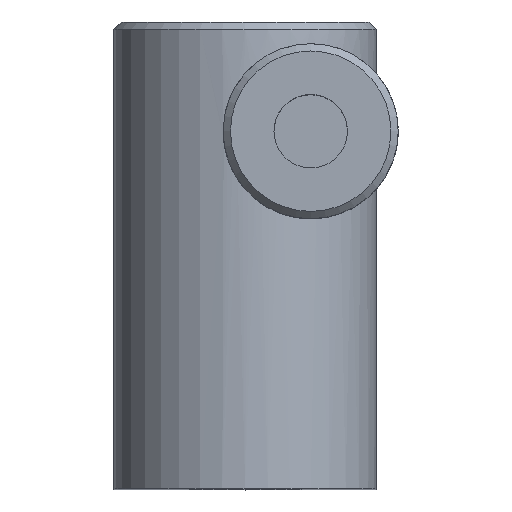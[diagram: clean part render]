
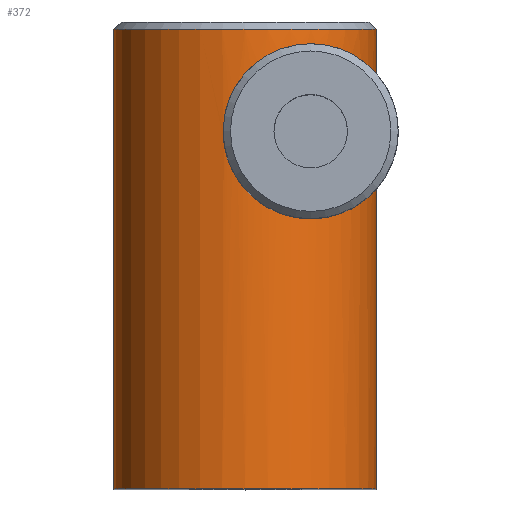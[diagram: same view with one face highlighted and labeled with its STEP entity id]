
A CAD part, top view. The second image highlights one B-rep face of the part: STEP entity #372.
In plain terms, the highlighted cylindrical face has radius 9 mm (diameter 18 mm), a partial arc.
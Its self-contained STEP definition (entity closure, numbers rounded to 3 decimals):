
#24=B_SPLINE_CURVE_WITH_KNOTS('',3,(#641,#642,#643,#644,#645,#646,#647,
#648,#649,#650,#651,#652,#653,#654,#655,#656,#657,#658,#659,#660),
 .UNSPECIFIED.,.F.,.F.,(4,2,2,2,2,2,2,2,2,4),(0.,0.2,0.399,
0.799,0.985,1.171,1.343,1.515,
1.689,1.864),.UNSPECIFIED.);
#25=B_SPLINE_CURVE_WITH_KNOTS('',3,(#662,#663,#664,#665,#666,#667,#668,
#669,#670,#671,#672,#673,#674,#675,#676,#677,#678,#679,#680,#681),
 .UNSPECIFIED.,.F.,.F.,(4,2,2,2,2,2,2,2,2,4),(1.864,2.038,
2.213,2.385,2.557,2.743,2.929,
3.328,3.528,3.728),.UNSPECIFIED.);
#65=FACE_OUTER_BOUND('',#89,.T.);
#89=EDGE_LOOP('',(#319,#320,#321,#322,#323,#324,#325));
#104=LINE('',#607,#130);
#105=LINE('',#611,#131);
#121=LINE('',#697,#147);
#130=VECTOR('',#488,10.);
#131=VECTOR('',#491,10.);
#147=VECTOR('',#543,10.);
#163=CIRCLE('',#425,9.);
#166=CIRCLE('',#431,9.);
#182=VERTEX_POINT('',#604);
#183=VERTEX_POINT('',#606);
#184=VERTEX_POINT('',#608);
#185=VERTEX_POINT('',#610);
#190=VERTEX_POINT('',#626);
#194=VERTEX_POINT('',#640);
#197=VERTEX_POINT('',#696);
#217=EDGE_CURVE('',#183,#182,#104,.T.);
#219=EDGE_CURVE('',#185,#184,#105,.T.);
#234=EDGE_CURVE('',#184,#194,#24,.T.);
#236=EDGE_CURVE('',#194,#183,#25,.T.);
#238=EDGE_CURVE('',#190,#182,#163,.T.);
#244=EDGE_CURVE('',#197,#190,#121,.T.);
#245=EDGE_CURVE('',#197,#185,#166,.T.);
#319=ORIENTED_EDGE('',*,*,#238,.F.);
#320=ORIENTED_EDGE('',*,*,#244,.F.);
#321=ORIENTED_EDGE('',*,*,#245,.T.);
#322=ORIENTED_EDGE('',*,*,#219,.T.);
#323=ORIENTED_EDGE('',*,*,#234,.T.);
#324=ORIENTED_EDGE('',*,*,#236,.T.);
#325=ORIENTED_EDGE('',*,*,#217,.T.);
#354=CYLINDRICAL_SURFACE('',#430,9.);
#372=ADVANCED_FACE('',(#65),#354,.T.);
#425=AXIS2_PLACEMENT_3D('',#685,#528,#529);
#430=AXIS2_PLACEMENT_3D('',#695,#541,#542);
#431=AXIS2_PLACEMENT_3D('',#698,#544,#545);
#488=DIRECTION('',(0.,1.,0.));
#491=DIRECTION('',(0.,1.,0.));
#528=DIRECTION('center_axis',(0.,1.,0.));
#529=DIRECTION('ref_axis',(-1.,0.,0.));
#541=DIRECTION('center_axis',(0.,1.,0.));
#542=DIRECTION('ref_axis',(-1.,0.,0.));
#543=DIRECTION('',(0.,1.,0.));
#544=DIRECTION('center_axis',(0.,1.,0.));
#545=DIRECTION('ref_axis',(-1.,0.,0.));
#604=CARTESIAN_POINT('',(49.,31.5,-9.));
#606=CARTESIAN_POINT('',(49.,28.469,-9.));
#607=CARTESIAN_POINT('',(49.,0.,-9.));
#608=CARTESIAN_POINT('',(49.,20.531,-9.));
#610=CARTESIAN_POINT('',(49.,0.,-9.));
#611=CARTESIAN_POINT('',(49.,0.,-9.));
#626=CARTESIAN_POINT('',(31.,31.5,-9.));
#640=CARTESIAN_POINT('',(38.5,24.5,-0.126));
#641=CARTESIAN_POINT('Ctrl Pts',(49.,20.531,-9.));
#642=CARTESIAN_POINT('Ctrl Pts',(49.,20.531,-8.335));
#643=CARTESIAN_POINT('Ctrl Pts',(48.926,20.444,-7.673));
#644=CARTESIAN_POINT('Ctrl Pts',(48.639,20.151,-6.391));
#645=CARTESIAN_POINT('Ctrl Pts',(48.425,19.949,-5.769));
#646=CARTESIAN_POINT('Ctrl Pts',(47.592,19.311,-3.994));
#647=CARTESIAN_POINT('Ctrl Pts',(46.774,18.853,-2.931));
#648=CARTESIAN_POINT('Ctrl Pts',(45.296,18.534,-1.698));
#649=CARTESIAN_POINT('Ctrl Pts',(44.736,18.476,-1.318));
#650=CARTESIAN_POINT('Ctrl Pts',(43.558,18.545,-0.707));
#651=CARTESIAN_POINT('Ctrl Pts',(42.94,18.675,-0.474));
#652=CARTESIAN_POINT('Ctrl Pts',(41.859,19.084,-0.178));
#653=CARTESIAN_POINT('Ctrl Pts',(41.316,19.377,-0.083));
#654=CARTESIAN_POINT('Ctrl Pts',(40.345,20.128,0.007));
#655=CARTESIAN_POINT('Ctrl Pts',(39.917,20.585,0.006));
#656=CARTESIAN_POINT('Ctrl Pts',(39.254,21.531,-0.025));
#657=CARTESIAN_POINT('Ctrl Pts',(38.967,22.096,-0.057));
#658=CARTESIAN_POINT('Ctrl Pts',(38.59,23.29,-0.109));
#659=CARTESIAN_POINT('Ctrl Pts',(38.5,23.918,-0.126));
#660=CARTESIAN_POINT('Ctrl Pts',(38.5,24.5,-0.126));
#662=CARTESIAN_POINT('Ctrl Pts',(38.5,24.5,-0.126));
#663=CARTESIAN_POINT('Ctrl Pts',(38.5,25.082,-0.126));
#664=CARTESIAN_POINT('Ctrl Pts',(38.59,25.71,-0.109));
#665=CARTESIAN_POINT('Ctrl Pts',(38.967,26.904,-0.057));
#666=CARTESIAN_POINT('Ctrl Pts',(39.254,27.469,-0.025));
#667=CARTESIAN_POINT('Ctrl Pts',(39.917,28.415,0.006));
#668=CARTESIAN_POINT('Ctrl Pts',(40.345,28.872,0.007));
#669=CARTESIAN_POINT('Ctrl Pts',(41.316,29.623,-0.083));
#670=CARTESIAN_POINT('Ctrl Pts',(41.859,29.916,-0.178));
#671=CARTESIAN_POINT('Ctrl Pts',(42.94,30.325,-0.474));
#672=CARTESIAN_POINT('Ctrl Pts',(43.558,30.455,-0.707));
#673=CARTESIAN_POINT('Ctrl Pts',(44.736,30.524,-1.318));
#674=CARTESIAN_POINT('Ctrl Pts',(45.296,30.466,-1.698));
#675=CARTESIAN_POINT('Ctrl Pts',(46.774,30.147,-2.931));
#676=CARTESIAN_POINT('Ctrl Pts',(47.592,29.689,-3.994));
#677=CARTESIAN_POINT('Ctrl Pts',(48.425,29.051,-5.769));
#678=CARTESIAN_POINT('Ctrl Pts',(48.639,28.849,-6.391));
#679=CARTESIAN_POINT('Ctrl Pts',(48.926,28.556,-7.673));
#680=CARTESIAN_POINT('Ctrl Pts',(49.,28.469,-8.335));
#681=CARTESIAN_POINT('Ctrl Pts',(49.,28.469,-9.));
#685=CARTESIAN_POINT('Origin',(40.,31.5,-9.));
#695=CARTESIAN_POINT('Origin',(40.,0.,-9.));
#696=CARTESIAN_POINT('',(31.,0.,-9.));
#697=CARTESIAN_POINT('',(31.,0.,-9.));
#698=CARTESIAN_POINT('Origin',(40.,0.,-9.));
